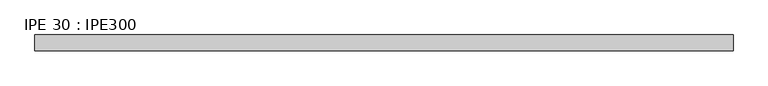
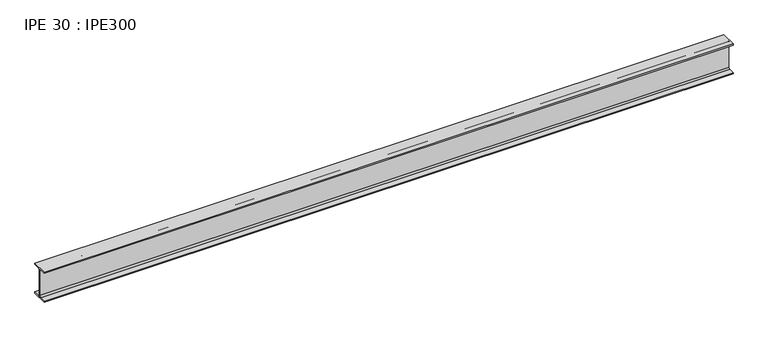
"""IFC4 building model written with IfcOpenShell, lengths in millimetres: beam geometry, IPE 30 : IPE300."""

from ifc_helpers import new_model, si_unit, point, frame, frame_2d, origin, place, context, project, spatial, polyline, circle_curve, trimmed, segment, composite_curve, outline, extrude, source, transform, mapped, element, save


def ipe_30_ipe300_c5483f05(model_context):
    return source(origin(), model_context, "Body", "SweptSolid", [
        extrude(outline(composite_curve([segment(polyline([(75.0, -139.3), (75.0, -150.0), (-75.0, -150.0), (-75.0, -139.3), (-18.55, -139.3)]), True, "CONTINUOUS"), segment(trimmed(circle_curve(frame_2d((-18.55, -124.3)), 15.0), [point((-18.55, -139.3))], [point((-3.55, -124.3))], True, "CARTESIAN"), True, "CONTINUOUS"), segment(polyline([(-3.55, -124.3), (-3.55, 124.3)]), True, "CONTINUOUS"), segment(trimmed(circle_curve(frame_2d((-18.55, 124.3)), 15.0), [point((-3.55, 124.3))], [point((-18.55, 139.3))], True, "CARTESIAN"), True, "CONTINUOUS"), segment(polyline([(-18.55, 139.3), (-75.0, 139.3), (-75.0, 150.0), (75.0, 150.0), (75.0, 139.3), (18.55, 139.3)]), True, "CONTINUOUS"), segment(trimmed(circle_curve(frame_2d((18.55, 124.3)), 15.0), [point((18.55, 139.3))], [point((3.55, 124.3))], True, "CARTESIAN"), True, "CONTINUOUS"), segment(polyline([(3.55, 124.3), (3.55, -124.3)]), True, "CONTINUOUS"), segment(trimmed(circle_curve(frame_2d((18.55, -124.3)), 15.0), [point((3.55, -124.3))], [point((18.55, -139.3))], True, "CARTESIAN"), True, "CONTINUOUS"), segment(polyline([(18.55, -139.3), (75.0, -139.3)]), True, "CONTINUOUS")], self_intersect=False)), frame((-3267.5, 0.0, 0.0), z_axis=(1.0, 0.0, 0.0), x_axis=(0.0, 1.0, 0.0)), (0.0, 0.0, 1.0), 6535.0),
    ])


if __name__ == "__main__":
    model = new_model("IFC4")
    model_context = context("Model", 3, world=origin())
    ifc_project = project(units=[si_unit("LENGTHUNIT", "METRE", prefix="MILLI")], contexts=[model_context])
    site = spatial("IfcSite", under=ifc_project)
    building = spatial("IfcBuilding", under=site)
    placement = place(None, origin())
    ipe_30_ipe300_shape = ipe_30_ipe300_c5483f05(model_context)
    element("IfcBeam", 1, ObjectType="IPE 30 : IPE300", at=placement, inside=building, context=model_context, shape_type="MappedRepresentation", body=[
        mapped(ipe_30_ipe300_shape, transform((0.0, 0.0, 0.0), x_axis=(1.0, 0.0, 0.0), y_axis=(0.0, 1.0, 0.0), z_axis=(0.0, 0.0, 1.0))),
    ])
    save(model, "model.ifc")
